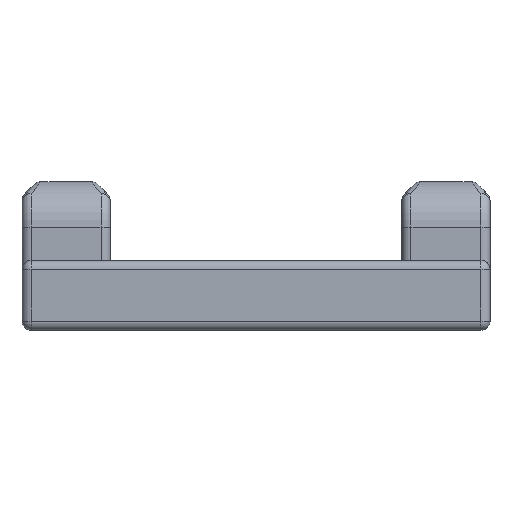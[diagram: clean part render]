
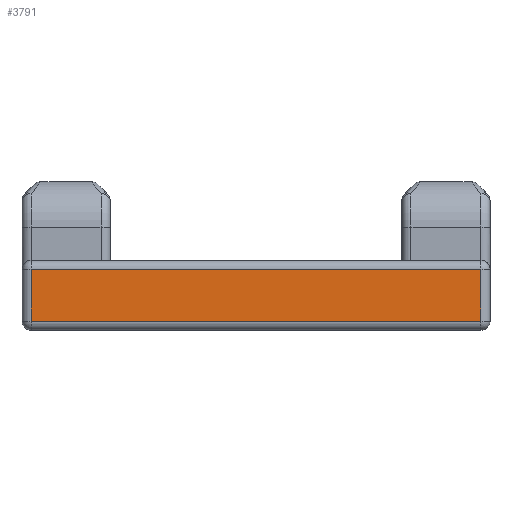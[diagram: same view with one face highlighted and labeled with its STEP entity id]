
A CAD part, top view. The second image highlights one B-rep face of the part: STEP entity #3791.
In plain terms, the highlighted planar face has unit normal (0, 0, 1).
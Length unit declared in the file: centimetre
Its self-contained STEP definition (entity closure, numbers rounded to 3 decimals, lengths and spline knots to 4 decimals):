
#447=LINE('',#6589,#747);
#448=LINE('',#6601,#748);
#449=LINE('',#6603,#749);
#450=LINE('',#6607,#750);
#747=VECTOR('',#4820,1.48);
#748=VECTOR('',#4839,0.17);
#749=VECTOR('',#4842,1.48);
#750=VECTOR('',#4849,0.17);
#853=PLANE('',#4074);
#1080=FACE_OUTER_BOUND('',#1312,.T.);
#1312=EDGE_LOOP('',(#3213,#3214,#3215,#3216));
#1760=VERTEX_POINT('',#6573);
#1761=VERTEX_POINT('',#6578);
#1762=VERTEX_POINT('',#6592);
#1763=VERTEX_POINT('',#6597);
#2249=EDGE_CURVE('',#1760,#1761,#447,.T.);
#2256=EDGE_CURVE('',#1761,#1763,#448,.T.);
#2257=EDGE_CURVE('',#1763,#1762,#449,.T.);
#2259=EDGE_CURVE('',#1762,#1760,#450,.T.);
#3213=ORIENTED_EDGE('',*,*,#2249,.F.);
#3214=ORIENTED_EDGE('',*,*,#2259,.F.);
#3215=ORIENTED_EDGE('',*,*,#2257,.F.);
#3216=ORIENTED_EDGE('',*,*,#2256,.F.);
#3791=ADVANCED_FACE('',(#1080),#853,.T.);
#4074=AXIS2_PLACEMENT_3D('',#6626,#4881,#4882);
#4820=DIRECTION('',(-1.,0.,0.));
#4839=DIRECTION('',(0.,1.,0.));
#4842=DIRECTION('',(1.,0.,0.));
#4849=DIRECTION('',(0.,-1.,0.));
#4881=DIRECTION('center_axis',(0.,0.,1.));
#4882=DIRECTION('ref_axis',(0.,-1.,0.));
#6573=CARTESIAN_POINT('',(1.45,-0.05,0.37));
#6578=CARTESIAN_POINT('',(-0.03,-0.05,0.37));
#6589=CARTESIAN_POINT('',(-0.06,-0.05,0.37));
#6592=CARTESIAN_POINT('',(1.45,0.12,0.37));
#6597=CARTESIAN_POINT('',(-0.03,0.12,0.37));
#6601=CARTESIAN_POINT('',(-0.03,0.15,0.37));
#6603=CARTESIAN_POINT('',(-0.06,0.12,0.37));
#6607=CARTESIAN_POINT('',(1.45,0.15,0.37));
#6626=CARTESIAN_POINT('Origin',(-0.06,0.15,0.37));
